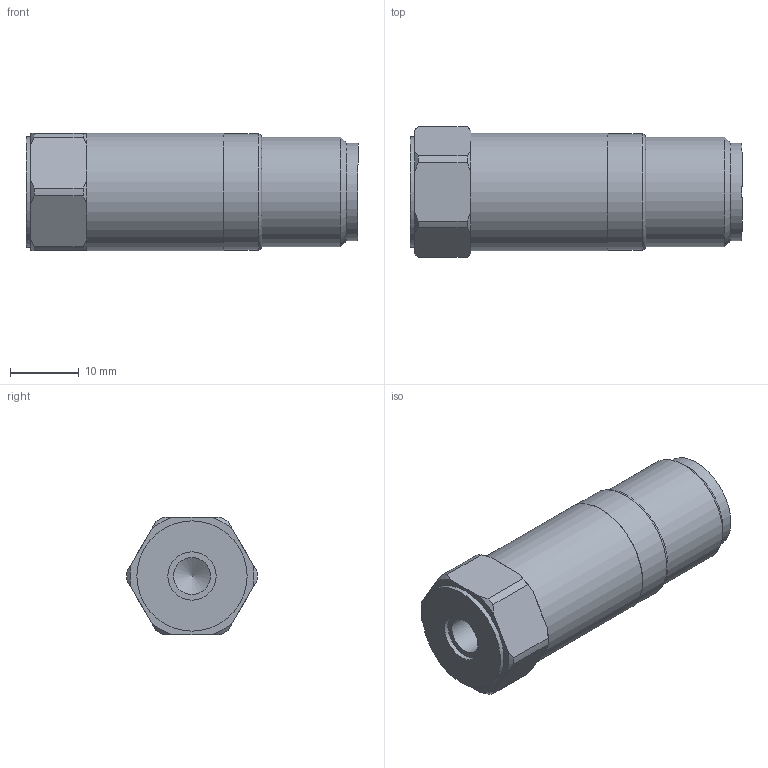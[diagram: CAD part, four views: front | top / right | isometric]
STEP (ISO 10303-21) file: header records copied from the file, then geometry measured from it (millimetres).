
FILE_DESCRIPTION(/* description */ (''),/* implementation_level */ '2;1');
FILE_NAME(/* name */ 'Z:\Engineering\Drawings\3D Library\Assemblies\Website\Premium Top\Compact\HS-170 Top 2 Pin MS\HS-1700105001.stp',/* time_stamp */ '2023-03-16T16:34:27+00:00',/* author */ ('Ricardo.Peneda'),/* organization */ (''),/* preprocessor_version */ 'ST-DEVELOPER v18.1',/* originating_system */ 'Autodesk Inventor 2021',/* authorisation */ '');
FILE_SCHEMA (('AUTOMOTIVE_DESIGN { 1 0 10303 214 3 1 1 }'));
Length unit declared in the file: inch
Products named in the file (1): HS-1700105001_Shrinkwrap_1
Bounding box: 48.2 x 19 x 17 mm (x, y, z)
Volume: 5411.9 mm3; surface area: 5186.7 mm2
Topology: 2 solids, 2 shells, 55 faces, 143 edges, 98 vertices
Faces by surface type: plane 22, cylinder 17, cone 15, torus 1
Full cylindrical faces by diameter (mm): 5.359 x1, 7 x1, 10.4 x1, 11.5 x1, 14.2 x1, 15.05 x1, 15.5 x1, 15.9 x1, 16 x1, 16.9 x1, 17 x1
Entity records: 1803 total; most frequent: CARTESIAN_POINT 344, DIRECTION 304, ORIENTED_EDGE 284, EDGE_CURVE 142, AXIS2_PLACEMENT_3D 130, VERTEX_POINT 98, CIRCLE 74, EDGE_LOOP 62
